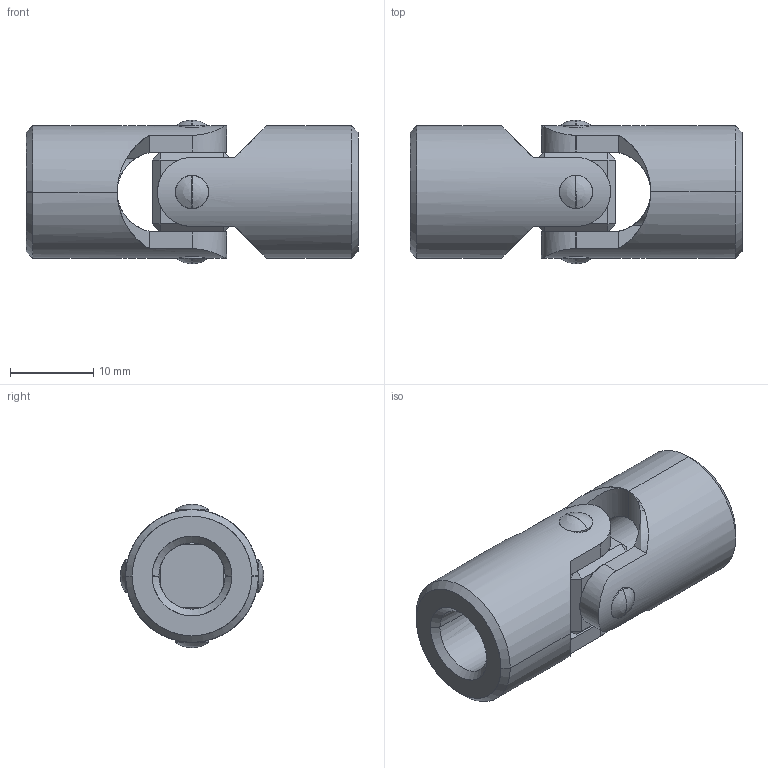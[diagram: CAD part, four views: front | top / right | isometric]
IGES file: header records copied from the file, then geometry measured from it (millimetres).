
Start section: SolidWorks IGES file using analytic representation for surfaces
Global section: file name: E:\WIXROYD\65186_v2\65186_v2_20180418_IGES\65186.W0008.igs; native system: SolidWorks 2017; preprocessor: SolidWorks 2017; author: liam_; date: 180618.201714; units: millimetre
Bounding box: 40 x 17.28 x 17.28 mm (x, y, z)
Surface area: 4372.9 mm2 (no closed solid volume)
Topology: 0 solids, 0 shells, 100 faces, 1662 edges, 1658 vertices
Faces by surface type: revolution 52, bspline 48
